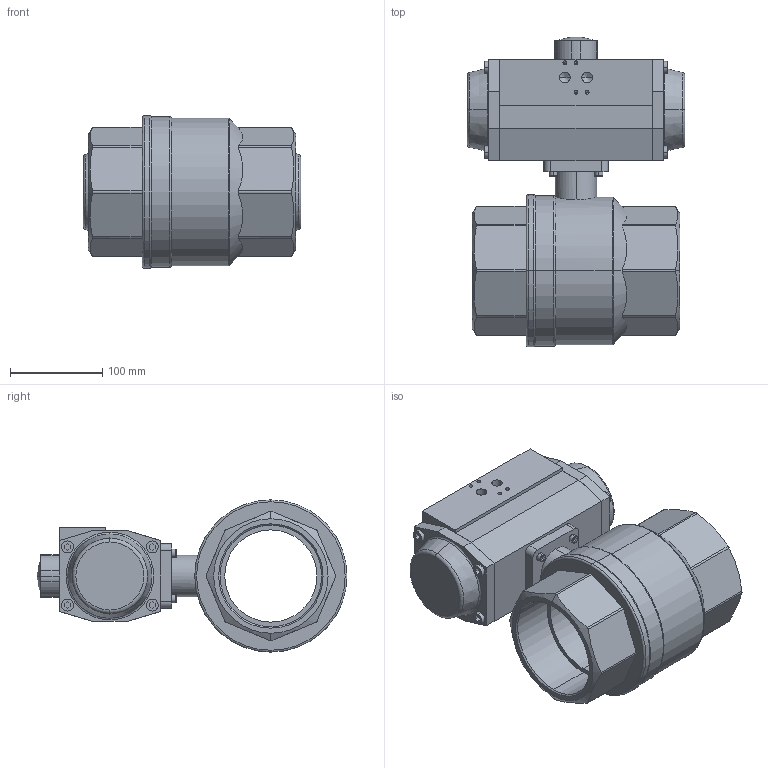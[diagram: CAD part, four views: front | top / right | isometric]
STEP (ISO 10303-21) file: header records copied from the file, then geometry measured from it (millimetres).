
FILE_DESCRIPTION (( 'STEP AP214' ), '1' );
FILE_NAME ('A25-DN100-G4+AP3.5.step', '2011-03-03T09:45:34', ( '' ), ( '' ), 'SwSTEP 2.0', 'SolidWorks 2011', '' );
FILE_SCHEMA (( 'AUTOMOTIVE_DESIGN' ));
Length unit declared in the file: millimetre
Products named in the file (4): DIN 912 M5 x 20 --- 20N_DIN 912 M5 x 20 --- 20N; AP3.5_Default<As Machined>; Ballvalve A25-DN100 G4; A25-DN100-G4+AP3.5
Assembly tree (6 placements, depth 2):
  A25-DN100-G4+AP3.5
    Ballvalve A25-DN100 G4
    DIN 912 M5 x 20 --- 20N_DIN 912 M5 x 20 --- 20N  x4
    AP3.5_Default<As Machined>
Bounding box: 236 x 335.99 x 165 mm (x, y, z)
Volume: 4247209.9 mm3; surface area: 344836.7 mm2
Topology: 9 solids, 9 shells, 432 faces, 1028 edges, 630 vertices
Faces by surface type: plane 221, cylinder 119, cone 58, torus 32, sphere 2
Entity records: 11619 total; most frequent: CARTESIAN_POINT 2359, DIRECTION 1736, ORIENTED_EDGE 1648, EDGE_CURVE 824, AXIS2_PLACEMENT_3D 610, VERTEX_POINT 531, LINE 516, VECTOR 516
